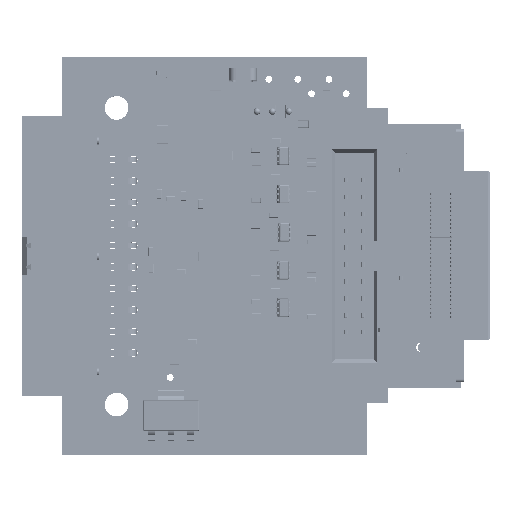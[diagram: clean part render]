
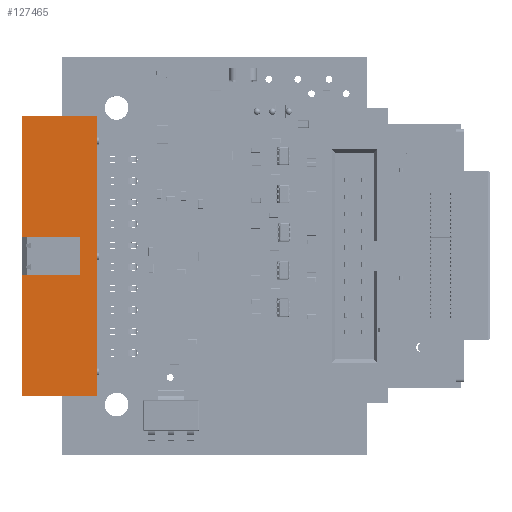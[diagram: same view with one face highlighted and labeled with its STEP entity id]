
A CAD part, top view. The second image highlights one B-rep face of the part: STEP entity #127465.
In plain terms, the highlighted planar face has unit normal (0, 0, 1) as drawn and (0, -1, 0) by its records, which use the part's own axes.
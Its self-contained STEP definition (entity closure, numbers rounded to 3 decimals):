
#126629 = VERTEX_POINT('',#126630);
#126630 = CARTESIAN_POINT('',(16.53,-4.425,-4.425));
#126636 = EDGE_CURVE('',#126629,#126637,#126639,.T.);
#126637 = VERTEX_POINT('',#126638);
#126638 = CARTESIAN_POINT('',(-16.53,-4.425,-4.425));
#126639 = LINE('',#126640,#126641);
#126640 = CARTESIAN_POINT('',(16.53,-4.425,-4.425));
#126641 = VECTOR('',#126642,1.);
#126642 = DIRECTION('',(-1.,0.,0.));
#127465 = ADVANCED_FACE('',(#127466),#127523,.F.);
#127466 = FACE_BOUND('',#127467,.T.);
#127467 = EDGE_LOOP('',(#127468,#127478,#127486,#127494,#127502,#127508,
    #127509,#127517));
#127468 = ORIENTED_EDGE('',*,*,#127469,.F.);
#127469 = EDGE_CURVE('',#127470,#127472,#127474,.T.);
#127470 = VERTEX_POINT('',#127471);
#127471 = CARTESIAN_POINT('',(2.25,-4.425,-2.375));
#127472 = VERTEX_POINT('',#127473);
#127473 = CARTESIAN_POINT('',(2.25,-4.425,4.425));
#127474 = LINE('',#127475,#127476);
#127475 = CARTESIAN_POINT('',(2.25,-4.425,-2.375));
#127476 = VECTOR('',#127477,1.);
#127477 = DIRECTION('',(0.,0.,1.));
#127478 = ORIENTED_EDGE('',*,*,#127479,.T.);
#127479 = EDGE_CURVE('',#127470,#127480,#127482,.T.);
#127480 = VERTEX_POINT('',#127481);
#127481 = CARTESIAN_POINT('',(-2.25,-4.425,-2.375));
#127482 = LINE('',#127483,#127484);
#127483 = CARTESIAN_POINT('',(2.25,-4.425,-2.375));
#127484 = VECTOR('',#127485,1.);
#127485 = DIRECTION('',(-1.,0.,0.));
#127486 = ORIENTED_EDGE('',*,*,#127487,.T.);
#127487 = EDGE_CURVE('',#127480,#127488,#127490,.T.);
#127488 = VERTEX_POINT('',#127489);
#127489 = CARTESIAN_POINT('',(-2.25,-4.425,4.425));
#127490 = LINE('',#127491,#127492);
#127491 = CARTESIAN_POINT('',(-2.25,-4.425,-2.375));
#127492 = VECTOR('',#127493,1.);
#127493 = DIRECTION('',(0.,0.,1.));
#127494 = ORIENTED_EDGE('',*,*,#127495,.F.);
#127495 = EDGE_CURVE('',#127496,#127488,#127498,.T.);
#127496 = VERTEX_POINT('',#127497);
#127497 = CARTESIAN_POINT('',(-16.53,-4.425,4.425));
#127498 = LINE('',#127499,#127500);
#127499 = CARTESIAN_POINT('',(-16.53,-4.425,4.425));
#127500 = VECTOR('',#127501,1.);
#127501 = DIRECTION('',(1.,0.,0.));
#127502 = ORIENTED_EDGE('',*,*,#127503,.F.);
#127503 = EDGE_CURVE('',#126637,#127496,#127504,.T.);
#127504 = LINE('',#127505,#127506);
#127505 = CARTESIAN_POINT('',(-16.53,-4.425,-4.425));
#127506 = VECTOR('',#127507,1.);
#127507 = DIRECTION('',(0.,0.,1.));
#127508 = ORIENTED_EDGE('',*,*,#126636,.F.);
#127509 = ORIENTED_EDGE('',*,*,#127510,.F.);
#127510 = EDGE_CURVE('',#127511,#126629,#127513,.T.);
#127511 = VERTEX_POINT('',#127512);
#127512 = CARTESIAN_POINT('',(16.53,-4.425,4.425));
#127513 = LINE('',#127514,#127515);
#127514 = CARTESIAN_POINT('',(16.53,-4.425,4.425));
#127515 = VECTOR('',#127516,1.);
#127516 = DIRECTION('',(0.,0.,-1.));
#127517 = ORIENTED_EDGE('',*,*,#127518,.F.);
#127518 = EDGE_CURVE('',#127472,#127511,#127519,.T.);
#127519 = LINE('',#127520,#127521);
#127520 = CARTESIAN_POINT('',(-16.53,-4.425,4.425));
#127521 = VECTOR('',#127522,1.);
#127522 = DIRECTION('',(1.,0.,0.));
#127523 = PLANE('',#127524);
#127524 = AXIS2_PLACEMENT_3D('',#127525,#127526,#127527);
#127525 = CARTESIAN_POINT('',(0.,-4.425,0.));
#127526 = DIRECTION('',(0.,1.,0.));
#127527 = DIRECTION('',(0.,0.,1.));
